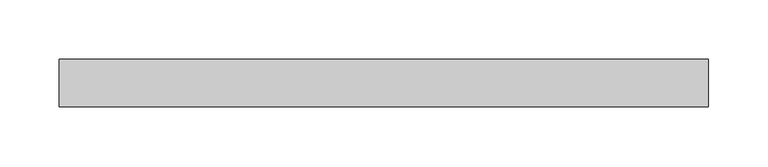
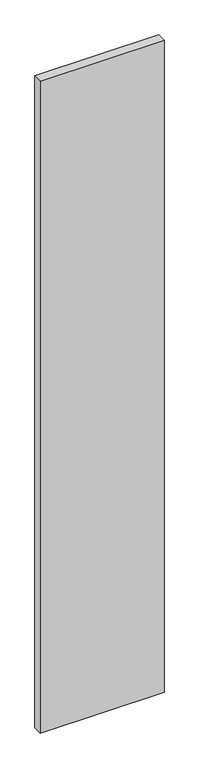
"""IFC4 building model written with IfcOpenShell, lengths in millimetres: plate geometry, Vitré."""

from ifc_helpers import new_model, si_unit, origin, origin_with_axes, place, context, project, spatial, polyline, outline, extrude, source, transform, mapped, element, save


def plate_a2816f12(model_context):
    return source(origin(), model_context, "Body", "SweptSolid", [
        extrude(outline(polyline([(-273.8593877, -20.0), (-273.8593877, 20.0), (273.8593877, 20.0), (273.8593877, -20.0), (-273.8593877, -20.0)])), origin_with_axes(), (0.0, 0.0, 1.0), 3047.625),
    ])


if __name__ == "__main__":
    model = new_model("IFC4")
    model_context = context("Model", 3, world=origin())
    ifc_project = project(units=[si_unit("LENGTHUNIT", "METRE", prefix="MILLI")], contexts=[model_context])
    site = spatial("IfcSite", under=ifc_project)
    building = spatial("IfcBuilding", under=site)
    placement = place(None, origin())
    plate_shape = plate_a2816f12(model_context)
    element("IfcPlate", 1, ObjectType="Vitré", at=placement, inside=building, context=model_context, shape_type="MappedRepresentation", body=[
        mapped(plate_shape, transform((0.0, 0.0, 0.0), x_axis=(1.0, 0.0, 0.0), y_axis=(0.0, 1.0, 0.0), z_axis=(0.0, 0.0, 1.0))),
    ])
    save(model, "model.ifc")
